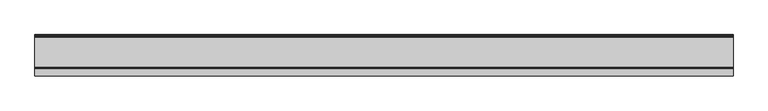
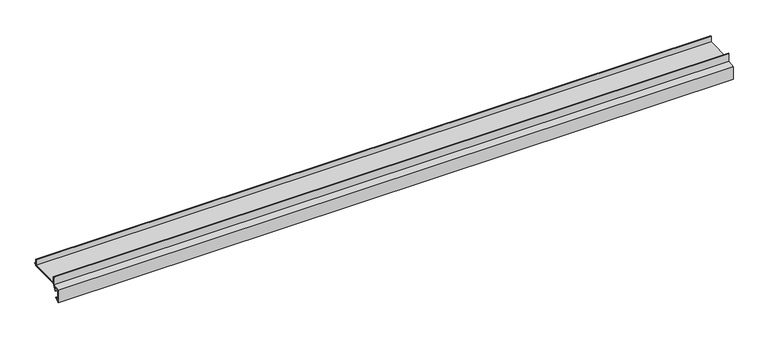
"""IFC4 building model written with IfcOpenShell, lengths in millimetres: proxy geometry, АК1_1 Примыкание к фундаментной балке : АК1_1 Примыкание к фундаментной балке."""

from ifc_helpers import new_model, si_unit, frame, origin, place, context, project, spatial, polyline, outline, extrude, faceted_brep, source, transform, mapped, element, save


def generic_models_c024c772(model_context):
    return source(origin(), model_context, "Body", "SolidModel", [
        faceted_brep([(0.0, 116.5, 9.0), (0.0, 120.7449534, 17.660254), (2600.0, 120.7449534, 17.660254), (2600.0, 116.5, 9.0), (0.0, 1.5, 9.0), (2600.0, 1.5, 9.0), (0.0, 0.0, 6.4019238), (2600.0, 0.0, 6.4019238), (2600.0, -13.5, -16.9807621), (0.0, -13.5, -16.9807621), (0.0, -14.3660254, -16.4807621), (2600.0, -14.3660254, -16.4807621), (0.0, 0.9226497, 10.0), (0.0, 0.0, 8.4019238), (2600.0, 0.0, 8.4019238), (2600.0, 0.9226497, 10.0), (0.0, 115.9226497, 10.0), (2600.0, 115.9226497, 10.0), (0.0, 119.8842356, 18.0821477), (2600.0, 119.8842356, 18.0821477)], [[[0, 1, 2, 3]], [[4, 0, 3, 5]], [[6, 4, 5, 7, 8, 9]], [[10, 9, 8, 11]], [[12, 13, 10, 11, 14, 15]], [[16, 12, 15, 17]], [[18, 16, 17, 19]], [[1, 18, 19, 2]], [[6, 13, 12, 16, 18, 1, 0, 4]], [[13, 6, 9, 10]], [[14, 7, 5, 3, 2, 19, 17, 15]], [[7, 14, 11, 8]]]),
        extrude(outline(polyline([(-4.5, 3.6294353), (-4.5, 33.6294353), (-3.5, 33.6294353), (-3.5, 2.7903356), (-33.0442326, -2.4191097), (-33.0442326, -49.1657965), (-20.6092037, -36.7307676), (-19.902097, -37.4378744), (-34.0442326, -51.58001), (-34.0442326, -1.58001), (-4.5, 3.6294353)])), frame((0.0, 0.0, 0.0), z_axis=(1.0, 0.0, 0.0), x_axis=(0.0, 1.0, 0.0)), (0.0, 0.0, 1.0), 2600.0),
        faceted_brep([(0.0, -3.5, 35.0), (0.0, -3.5, 10.0), (2600.0, -3.5, 10.0), (2600.0, -3.5, 35.0), (0.0, -1.5, 35.0), (2600.0, -1.5, 35.0), (0.0, -1.5, 12.0), (2600.0, -1.5, 12.0), (0.0, 112.5, 12.0), (0.0, 0.0, 12.0), (2600.0, 0.0, 12.0), (2600.0, 112.5, 12.0), (0.0, 112.5, 35.0), (2600.0, 112.5, 35.0), (0.0, 114.5, 35.0), (2600.0, 114.5, 35.0), (0.0, 114.5, 10.0), (2600.0, 114.5, 10.0), (0.0, 0.0, 10.0), (2600.0, 0.0, 10.0)], [[[0, 1, 2, 3]], [[4, 0, 3, 5]], [[6, 4, 5, 7]], [[8, 9, 6, 7, 10, 11]], [[12, 8, 11, 13]], [[14, 12, 13, 15]], [[16, 14, 15, 17]], [[18, 16, 17, 19, 2, 1]], [[9, 18, 1, 0, 4, 6]], [[19, 10, 7, 5, 3, 2]], [[18, 9, 8, 12, 14, 16]], [[10, 19, 17, 15, 13, 11]]]),
    ])


if __name__ == "__main__":
    model = new_model("IFC4")
    model_context = context("Model", 3, world=origin())
    ifc_project = project(units=[si_unit("LENGTHUNIT", "METRE", prefix="MILLI")], contexts=[model_context])
    site = spatial("IfcSite", under=ifc_project)
    building = spatial("IfcBuilding", under=site)
    placement = place(None, origin())
    generic_models_shape = generic_models_c024c772(model_context)
    element("IfcBuildingElementProxy", 1, Name="АК1_1 Примыкание к фундаментной балке : АК1_1 Примыкание к фундаментной балке", ObjectType="АК1_1 Примыкание к фундаментной балке : АК1_1 Примыкание к фундаментной балке", at=placement, inside=building, context=model_context, shape_type="MappedRepresentation", body=[
        mapped(generic_models_shape, transform((0.0, 0.0, 0.0), x_axis=(1.0, 0.0, 0.0), y_axis=(0.0, 1.0, 0.0), z_axis=(0.0, 0.0, 1.0))),
    ])
    save(model, "model.ifc")
